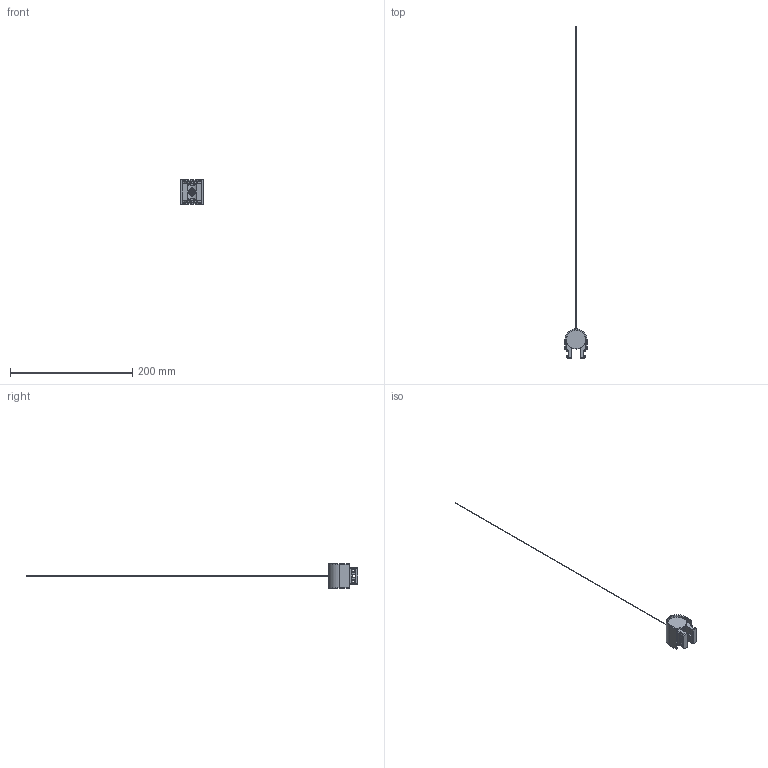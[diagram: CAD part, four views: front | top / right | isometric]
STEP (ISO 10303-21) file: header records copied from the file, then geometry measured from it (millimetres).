
FILE_DESCRIPTION (( 'STEP AP214' ), '1' );
FILE_NAME ('ACTESTAC001XXXX.STEP', '2023-08-28T15:40:45', ( '' ), ( '' ), 'SwSTEP 2.0', 'SolidWorks 2023', '' );
FILE_SCHEMA (( 'AUTOMOTIVE_DESIGN' ));
Length unit declared in the file: millimetre
Products named in the file (3): ACTESTAC001XXXX; WSCA01193000B2830B
Assembly tree (2 placements, depth 2):
  ACTESTAC001XXXX
    ACTESTAC001XXXX
    WSCA01193000B2830B
Bounding box: 36.2 x 542.99 x 40 mm (x, y, z)
Volume: 21369.9 mm3; surface area: 15624.7 mm2
Topology: 2 solids, 2 shells, 566 faces, 1311 edges, 706 vertices
Faces by surface type: cylinder 224, torus 126, bspline 82, plane 78, sphere 46, cone 10
Entity records: 18659 total; most frequent: CARTESIAN_POINT 6294, DIRECTION 2746, ORIENTED_EDGE 2532, EDGE_CURVE 1266, AXIS2_PLACEMENT_3D 1161, VERTEX_POINT 706, CIRCLE 672, EDGE_LOOP 582
